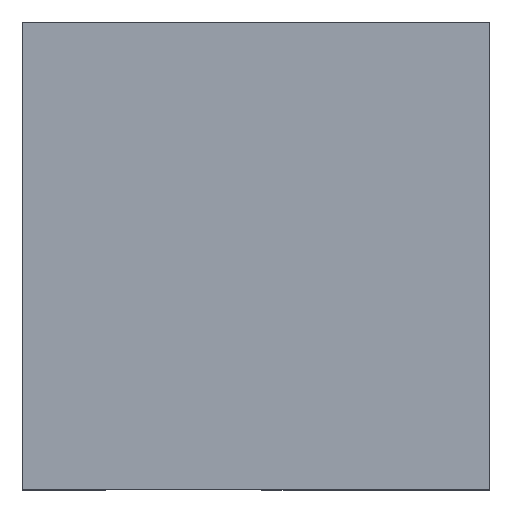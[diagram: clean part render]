
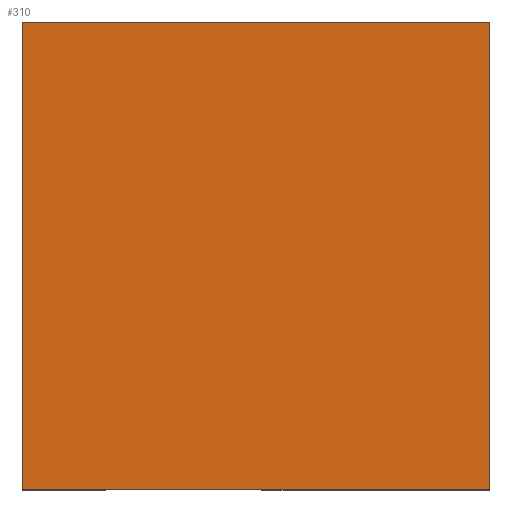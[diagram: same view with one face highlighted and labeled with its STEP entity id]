
A CAD part, top view. The second image highlights one B-rep face of the part: STEP entity #310.
In plain terms, the highlighted planar face has unit normal (0, 0, 1).
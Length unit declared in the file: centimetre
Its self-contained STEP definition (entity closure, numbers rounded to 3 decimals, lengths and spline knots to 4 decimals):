
#37 = FACE_OUTER_BOUND ( 'NONE', #305, .T. ) ;
#52 = EDGE_CURVE ( 'NONE', #400, #439, #432, .T. ) ;
#135 = VECTOR ( 'NONE', #399, 100. ) ;
#147 = VERTEX_POINT ( 'NONE', #589 ) ;
#157 = CARTESIAN_POINT ( 'NONE',  ( 0., 1000., 1000. ) ) ;
#162 = EDGE_CURVE ( 'NONE', #439, #499, #564, .T. ) ;
#190 = LINE ( 'NONE', #433, #215 ) ;
#194 = DIRECTION ( 'NONE',  ( -1., 0., 0. ) ) ;
#215 = VECTOR ( 'NONE', #240, 100. ) ;
#234 = VECTOR ( 'NONE', #194, 100. ) ;
#237 = CARTESIAN_POINT ( 'NONE',  ( 0., 1000., 1000. ) ) ;
#240 = DIRECTION ( 'NONE',  ( 0., 1., 0. ) ) ;
#245 = AXIS2_PLACEMENT_3D ( 'NONE', #580, #481, #614 ) ;
#252 = CARTESIAN_POINT ( 'NONE',  ( 0., 0., 1000. ) ) ;
#305 = EDGE_LOOP ( 'NONE', ( #345, #543, #534, #552 ) ) ;
#310 = ADVANCED_FACE ( 'NONE', ( #37 ), #419, .T. ) ;
#323 = EDGE_CURVE ( 'NONE', #147, #400, #190, .T. ) ;
#332 = DIRECTION ( 'NONE',  ( 0., -1., 0. ) ) ;
#345 = ORIENTED_EDGE ( 'NONE', *, *, #162, .T. ) ;
#347 = CARTESIAN_POINT ( 'NONE',  ( 0., 1000., 1000. ) ) ;
#395 = CARTESIAN_POINT ( 'NONE',  ( 0., 0., 1000. ) ) ;
#399 = DIRECTION ( 'NONE',  ( 1., 0., 0. ) ) ;
#400 = VERTEX_POINT ( 'NONE', #530 ) ;
#419 = PLANE ( 'NONE',  #245 ) ;
#432 = LINE ( 'NONE', #347, #234 ) ;
#433 = CARTESIAN_POINT ( 'NONE',  ( 1000., 1000., 1000. ) ) ;
#439 = VERTEX_POINT ( 'NONE', #157 ) ;
#481 = DIRECTION ( 'NONE',  ( 0., 0., 1. ) ) ;
#491 = LINE ( 'NONE', #395, #135 ) ;
#499 = VERTEX_POINT ( 'NONE', #252 ) ;
#530 = CARTESIAN_POINT ( 'NONE',  ( 1000., 1000., 1000. ) ) ;
#534 = ORIENTED_EDGE ( 'NONE', *, *, #323, .T. ) ;
#543 = ORIENTED_EDGE ( 'NONE', *, *, #588, .T. ) ;
#552 = ORIENTED_EDGE ( 'NONE', *, *, #52, .T. ) ;
#559 = VECTOR ( 'NONE', #332, 100. ) ;
#564 = LINE ( 'NONE', #237, #559 ) ;
#580 = CARTESIAN_POINT ( 'NONE',  ( 0., 0., 1000. ) ) ;
#588 = EDGE_CURVE ( 'NONE', #499, #147, #491, .T. ) ;
#589 = CARTESIAN_POINT ( 'NONE',  ( 1000., 0., 1000. ) ) ;
#614 = DIRECTION ( 'NONE',  ( 1., 0., 0. ) ) ;
